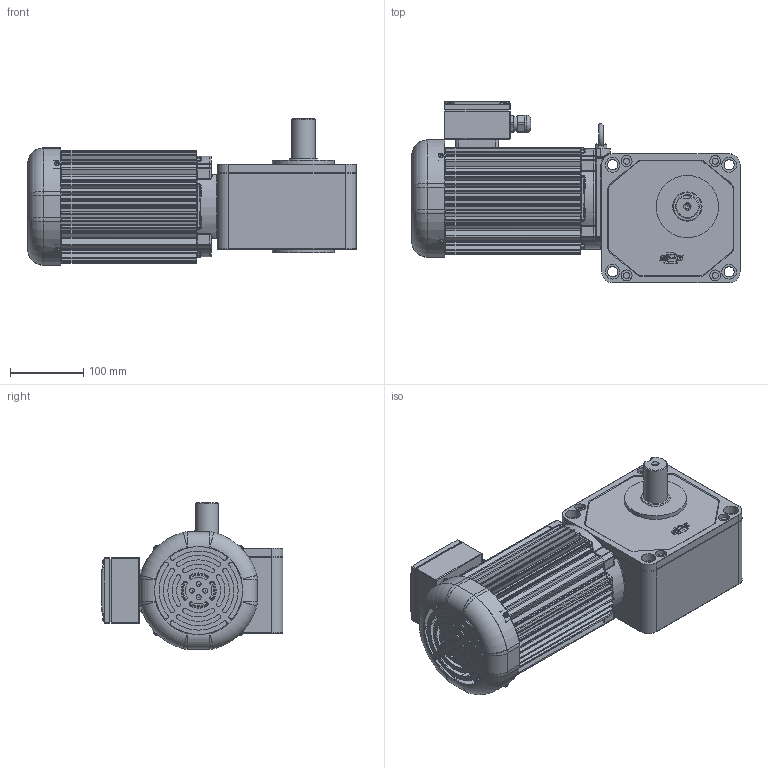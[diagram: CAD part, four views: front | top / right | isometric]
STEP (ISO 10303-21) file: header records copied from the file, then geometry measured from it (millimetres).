
FILE_DESCRIPTION(/* description */ (''),/* implementation_level */ '2;1');
FILE_NAME(/* name */ 'Z:\동력 3D 파일\PCS32L_0.75kW_3D.stp',/* time_stamp */ '2021-11-09T11:39:53+09:00',/* author */ ('jaebok'),/* organization */ (''),/* preprocessor_version */ 'ST-DEVELOPER v18.1',/* originating_system */ 'Autodesk Inventor 2022',/* authorisation */ '');
FILE_SCHEMA (('AUTOMOTIVE_DESIGN { 1 0 10303 214 3 1 1 }'));
Products named in the file (1): 부품59
Bounding box: 448 x 248 x 200.2 mm (x, y, z)
Volume: 2853005.8 mm3; surface area: 770033.4 mm2
Topology: 1 solids, 26 shells, 2123 faces, 5422 edges, 3372 vertices
Faces by surface type: plane 868, cylinder 770, bspline 204, torus 172, cone 61, sphere 48
Full cylindrical faces by diameter (mm): 3.25 x1, 3.5 x4, 3.6 x4, 4 x22, 5 x13, 6 x8, 6.647 x2, 7 x13, 8 x5, 8.5 x4, 10 x1, 12.5 x1, 14 x4, 15 x5, 18 x1, 20 x14, 20.6 x1, 21 x1, 23.6 x1, 25 x1, 30 x1, 32 x1, 40 x3, 44 x1, 54.5 x1, 68 x1, 72 x2, 85 x2, 125 x1, 128 x2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
Entity records: 73009 total; most frequent: CARTESIAN_POINT 19721, DIRECTION 10953, ORIENTED_EDGE 10724, EDGE_CURVE 5362, AXIS2_PLACEMENT_3D 4229, VERTEX_POINT 3372, LINE 2495, VECTOR 2495
